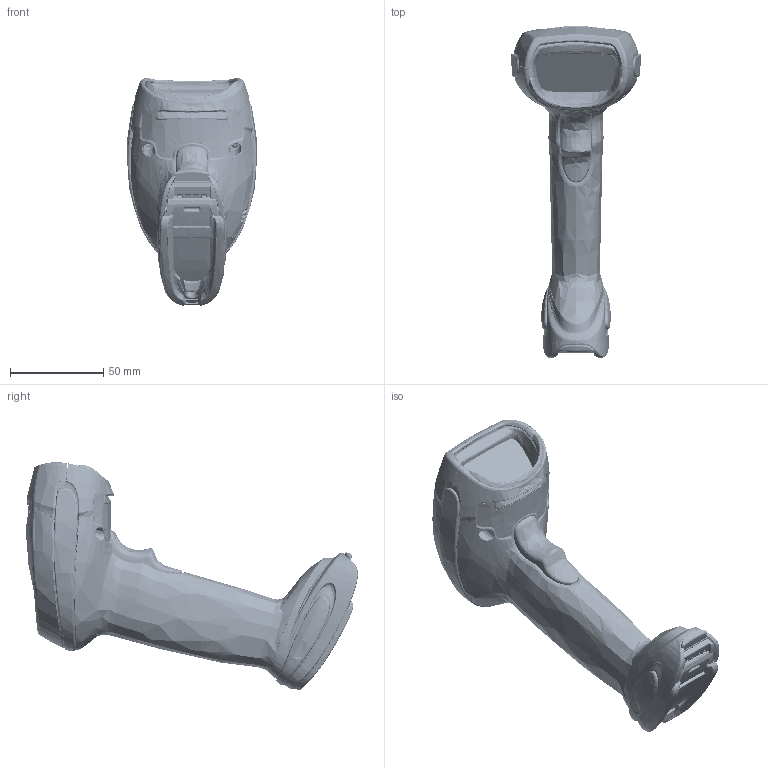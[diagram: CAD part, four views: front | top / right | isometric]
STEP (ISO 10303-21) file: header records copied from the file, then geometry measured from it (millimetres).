
FILE_DESCRIPTION((''),'2;1');
FILE_NAME('LI4278_OEM_122012_1_ASM','2024-11-11T15:28:43',('DHFW78'),('Zebra Technologies Corp.'),'CREO PARAMETRIC BY PTC INC, 2022414','CREO PARAMETRIC BY PTC INC, 2022414','');
FILE_SCHEMA(('AUTOMOTIVE_DESIGN { 1 0 10303 214 1 1 1 1 }'));
Products named in the file (35): 20-XXXXXX_TOP_ASSY_SKEL_LI42_1; 11-144675_HSG_HNDL_SUB_LI4278_1; 11-144678_OVRMLD_HNDL_LI4278; 41-144672_ASSY_HNDL_LI4278_1_ASM; 21-144659_HSG_HANDLE_ASSY_1_ASM; 11-144768_OVRMLD_WINDOW_LI4278_; 16-136500_WINDOW_EXIT_DS42X8_1; 22-144767_ASSY_WINDOW_LI4278_1_ASM; PIVOT_DOOR_1; PAD_BATTERY_DOOR_1; 11-146730_BTRY_DOOR_LI4278_1; 11-146729_OVRMLD_BTRYDOR_LI4278; 41-146727_ASSY_BTRY_DOOR_LI4278_ASM; 21-146726_ASSY_BTRDR_PDS_LI4278_ASM; 11-144698_BAFFLE_LIGHT_LI4278_1; 63-MFG_LABEL_WRAP_LI4278_1; 63-XXXXXX_LBL_LOGO_LI4278_WRAP; ALPINE_TRIGGER_1; 63-TEST_BATT_LABEL_LI4_WRAP; 50-12800-1039; 11-154172_PLUG_1; 11-144686_CANOPY_SBSTRT_LI4278_; 11-144683_DIFFSR_LGT_CLR_LI4278; 41-144688_ASSY_CANOPY_LI4278_1_ASM; 21-157024_ASSY_CANOPY_PADPRINT__ASM; 31-144659_ASSY_HSG_LI4278_1_ASM; LEG_CONTACT_BLOCK; CONTACT_4_S; CONTACT_3_S; CONTACT_2_S; CONTACT_1_S; CONTACTS_SCANNER_ASM; CONTACT_BLOCK_ASSY2_ASM; ALPINE_CONTACT_BLOCK_ASM; LI4278_OEM_122012_1_ASM
Assembly tree (35 placements, depth 5):
  LI4278_OEM_122012_1_ASM
    20-XXXXXX_TOP_ASSY_SKEL_LI42_1
    31-144659_ASSY_HSG_LI4278_1_ASM
      21-144659_HSG_HANDLE_ASSY_1_ASM
        41-144672_ASSY_HNDL_LI4278_1_ASM
          11-144675_HSG_HNDL_SUB_LI4278_1
          11-144678_OVRMLD_HNDL_LI4278
      22-144767_ASSY_WINDOW_LI4278_1_ASM
        11-144768_OVRMLD_WINDOW_LI4278_
        16-136500_WINDOW_EXIT_DS42X8_1
      PIVOT_DOOR_1
      21-146726_ASSY_BTRDR_PDS_LI4278_ASM
        PAD_BATTERY_DOOR_1  x2
        41-146727_ASSY_BTRY_DOOR_LI4278_ASM
          11-146730_BTRY_DOOR_LI4278_1
          11-146729_OVRMLD_BTRYDOR_LI4278
      11-144698_BAFFLE_LIGHT_LI4278_1
      63-MFG_LABEL_WRAP_LI4278_1
      63-XXXXXX_LBL_LOGO_LI4278_WRAP
      ALPINE_TRIGGER_1
      63-TEST_BATT_LABEL_LI4_WRAP
      50-12800-1039
      11-154172_PLUG_1
      21-157024_ASSY_CANOPY_PADPRINT__ASM
        41-144688_ASSY_CANOPY_LI4278_1_ASM
          11-144686_CANOPY_SBSTRT_LI4278_
          11-144683_DIFFSR_LGT_CLR_LI4278
    ALPINE_CONTACT_BLOCK_ASM
      CONTACT_BLOCK_ASSY2_ASM
        LEG_CONTACT_BLOCK
        CONTACTS_SCANNER_ASM
          CONTACT_4_S
          CONTACT_3_S
          CONTACT_2_S
          CONTACT_1_S
Bounding box: 69.83 x 178.05 x 122.12 mm (x, y, z)
Volume: 122759.8 mm3; surface area: 136279.5 mm2
Topology: 22 solids, 24 shells, 10240 faces, 25917 edges, 15463 vertices
Faces by surface type: bspline 5809, cylinder 1847, plane 1493, torus 400, extrusion 326, sphere 218, cone 143, revolution 4
Entity records: 985783 total; most frequent: CARTESIAN_POINT 713676, ORIENTED_EDGE 51306, EDGE_CURVE 25660, DIRECTION 20049, B_SPLINE_CURVE_WITH_KNOTS 17515, VERTEX_POINT 15454, PRESENTATION_STYLE_ASSIGNMENT 13243, STYLED_ITEM 12596
